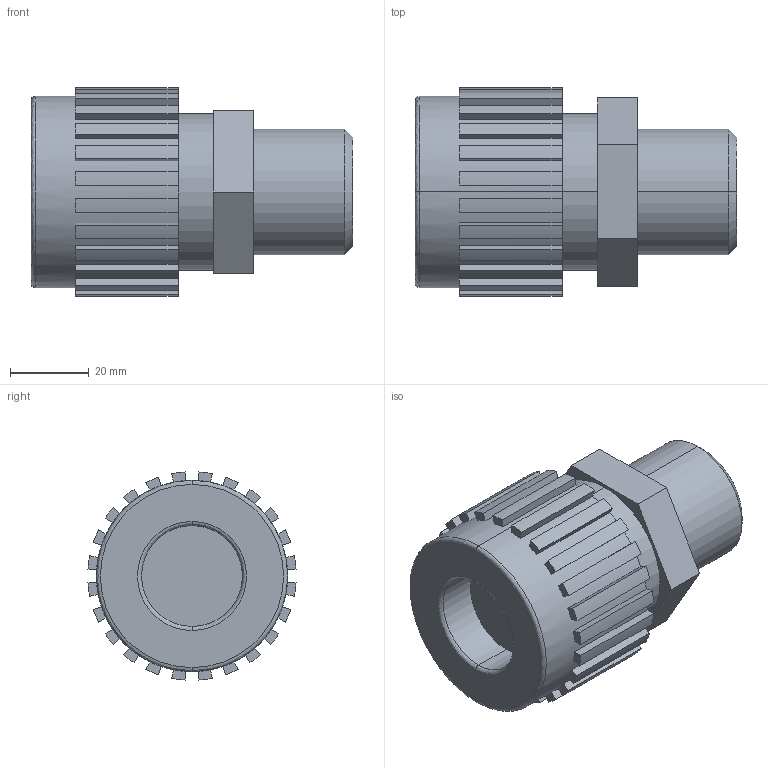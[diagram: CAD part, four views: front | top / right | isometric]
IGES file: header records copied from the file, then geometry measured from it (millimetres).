
Start section: SolidWorks IGES file using analytic representation for surfaces
Global section: file name: S:\Product Visuals\Defeatured Models and Parts Library\Parts Library IGES & STEP\Liquid Fittings\Front Mount liquid Fittings\Pillar S-300\60LPM\Fitting Pillar S-300 16.IGS; native system: SolidWorks 2012; preprocessor: SolidWorks 2012; author: rachel.dressel; date: 120926.102741; units: inch
Bounding box: 81.55 x 52.72 x 52.72 mm (x, y, z)
Volume: 113196.9 mm3; surface area: 19018.7 mm2
Topology: 1 solids, 1 shells, 122 faces, 342 edges, 226 vertices
Faces by surface type: plane 84, revolution 38
